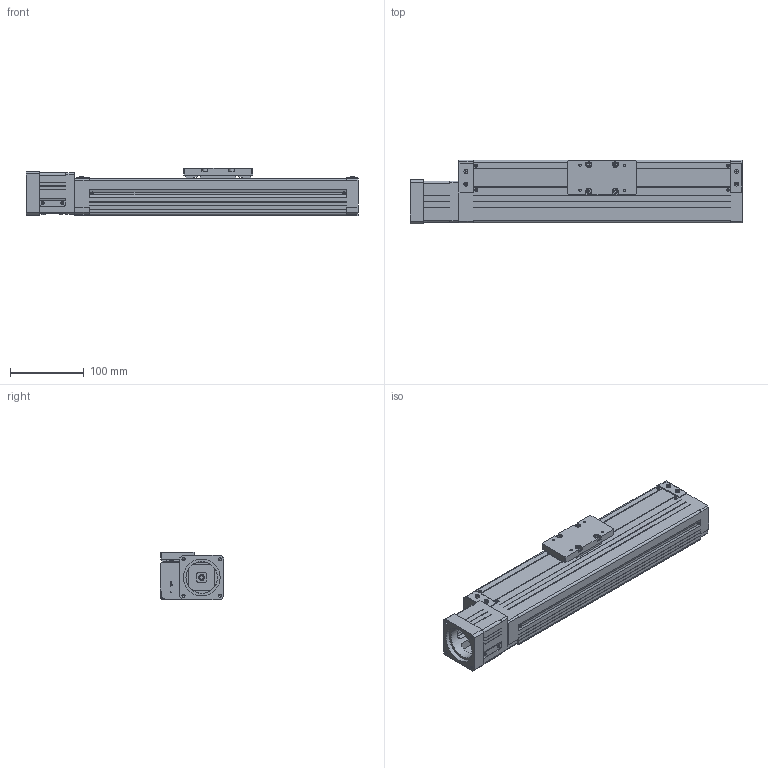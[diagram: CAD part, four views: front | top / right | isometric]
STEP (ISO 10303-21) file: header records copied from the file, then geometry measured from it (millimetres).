
FILE_DESCRIPTION((''),'2;1');
FILE_NAME('D:\製品 (図面)\カタログ用3D\SU部品\SU85×65\ダウンロード用\SU85×65-MB60\SU85×65-250-MB60.stp','2011-07-01T17:46:35',('Tsuchiya'),(''),'Autodesk Inventor 10','Autodesk Inventor 10','');
FILE_SCHEMA(('AUTOMOTIVE_DESIGN { 1 0 10303 214 1 1 1 1 }'));
Length unit declared in the file: millimetre
Products named in the file (3): SU85×65-250-MB60; SU85×65-250-MB601; SU85×65-250-MB602
Assembly tree (2 placements, depth 2):
  SU85×65-250-MB60
    SU85×65-250-MB601
    SU85×65-250-MB602
Bounding box: 451 x 86.45 x 65 mm (x, y, z)
Volume: 891423.8 mm3; surface area: 289218.5 mm2
Topology: 8 solids, 8 shells, 833 faces, 2214 edges, 1434 vertices
Faces by surface type: plane 699, cylinder 100, cone 18, torus 12, bspline 4
Full cylindrical faces by diameter (mm): 3.242 x4, 4 x4, 4.134 x12, 4.5 x4, 5.5 x4, 6 x1, 7 x4, 8 x1, 11.5 x1, 12 x1, 13 x1, 43 x1, 50 x1
Entity records: 25598 total; most frequent: CARTESIAN_POINT 5159, ORIENTED_EDGE 4222, DIRECTION 4000, EDGE_CURVE 2111, VECTOR 1714, LINE 1714, VERTEX_POINT 1404, AXIS2_PLACEMENT_3D 1143
